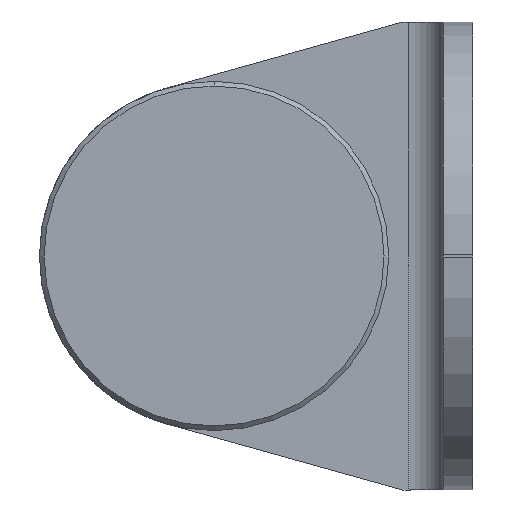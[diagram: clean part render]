
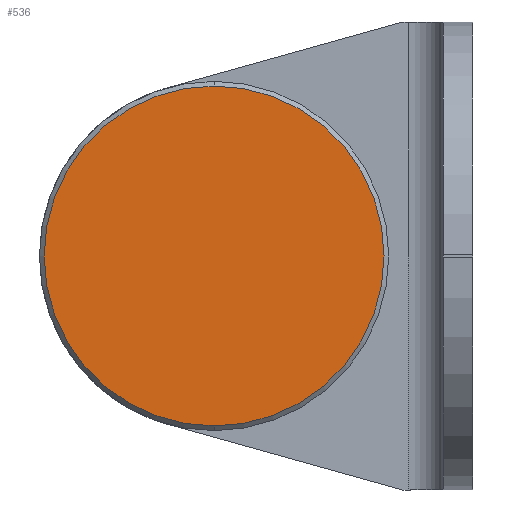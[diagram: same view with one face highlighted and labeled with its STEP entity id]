
A CAD part, left-side view. The second image highlights one B-rep face of the part: STEP entity #536.
In plain terms, the highlighted planar face has unit normal (-1, 0, 0).
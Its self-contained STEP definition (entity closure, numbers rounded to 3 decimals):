
#241 = ORIENTED_EDGE ( 'NONE', *, *, #2494, .F. ) ;
#275 = CIRCLE ( 'NONE', #554, 14.6 ) ;
#297 = CARTESIAN_POINT ( 'NONE',  ( -15.5, 0., 14.6 ) ) ;
#406 = AXIS2_PLACEMENT_3D ( 'NONE', #2305, #2889, #460 ) ;
#409 = CARTESIAN_POINT ( 'NONE',  ( -15.5, 0., 0. ) ) ;
#460 = DIRECTION ( 'NONE',  ( 0., 0., -1. ) ) ;
#536 = ADVANCED_FACE ( 'NONE', ( #1514 ), #2836, .T. ) ;
#554 = AXIS2_PLACEMENT_3D ( 'NONE', #1484, #2341, #2289 ) ;
#686 = CIRCLE ( 'NONE', #406, 14.6 ) ;
#1150 = VERTEX_POINT ( 'NONE', #297 ) ;
#1225 = DIRECTION ( 'NONE',  ( -1., 0., 0. ) ) ;
#1268 = VERTEX_POINT ( 'NONE', #3011 ) ;
#1484 = CARTESIAN_POINT ( 'NONE',  ( -15.5, 0., 0. ) ) ;
#1514 = FACE_OUTER_BOUND ( 'NONE', #2696, .T. ) ;
#2216 = ORIENTED_EDGE ( 'NONE', *, *, #3251, .F. ) ;
#2289 = DIRECTION ( 'NONE',  ( 0., 0., -1. ) ) ;
#2305 = CARTESIAN_POINT ( 'NONE',  ( -15.5, 0., 0. ) ) ;
#2341 = DIRECTION ( 'NONE',  ( 1., 0., 0. ) ) ;
#2494 = EDGE_CURVE ( 'NONE', #1150, #1268, #275, .T. ) ;
#2696 = EDGE_LOOP ( 'NONE', ( #2216, #241 ) ) ;
#2836 = PLANE ( 'NONE',  #2914 ) ;
#2889 = DIRECTION ( 'NONE',  ( 1., 0., 0. ) ) ;
#2914 = AXIS2_PLACEMENT_3D ( 'NONE', #409, #1225, #3126 ) ;
#3011 = CARTESIAN_POINT ( 'NONE',  ( -15.5, 0., -14.6 ) ) ;
#3126 = DIRECTION ( 'NONE',  ( 0., 0., 1. ) ) ;
#3251 = EDGE_CURVE ( 'NONE', #1268, #1150, #686, .T. ) ;
